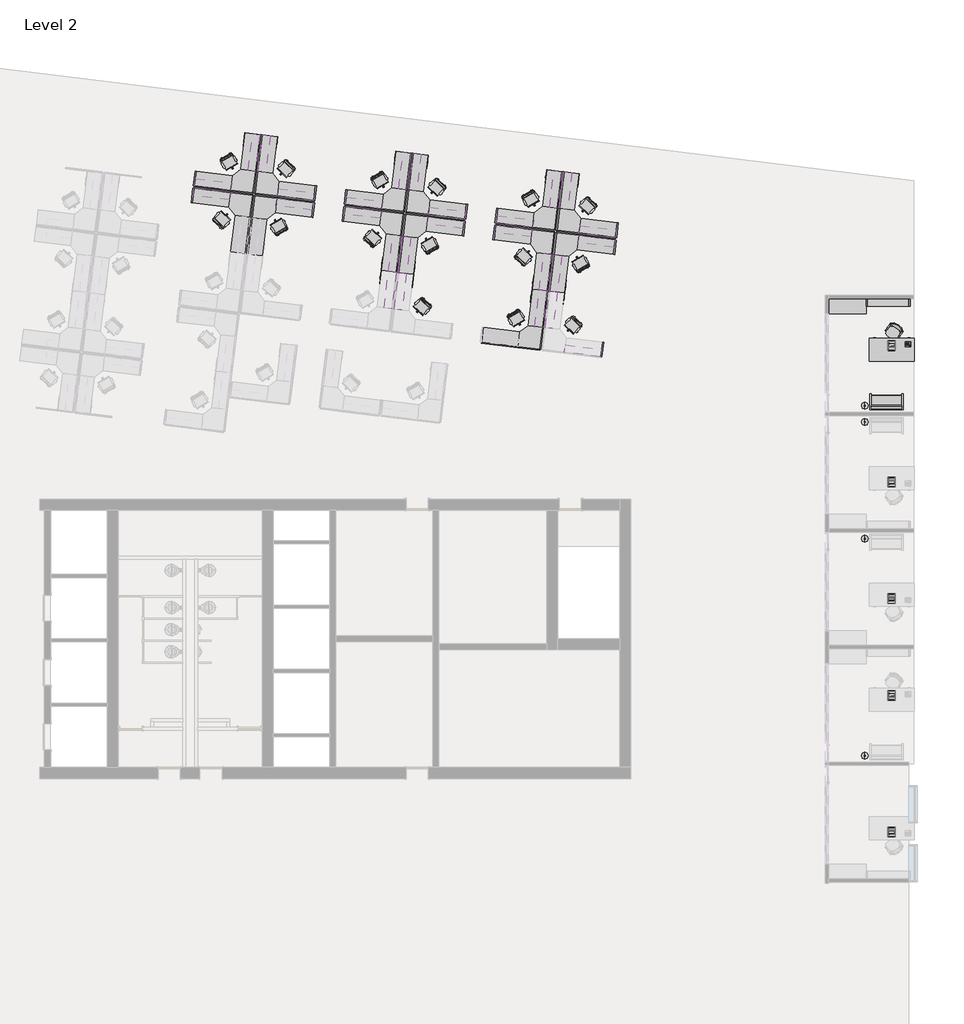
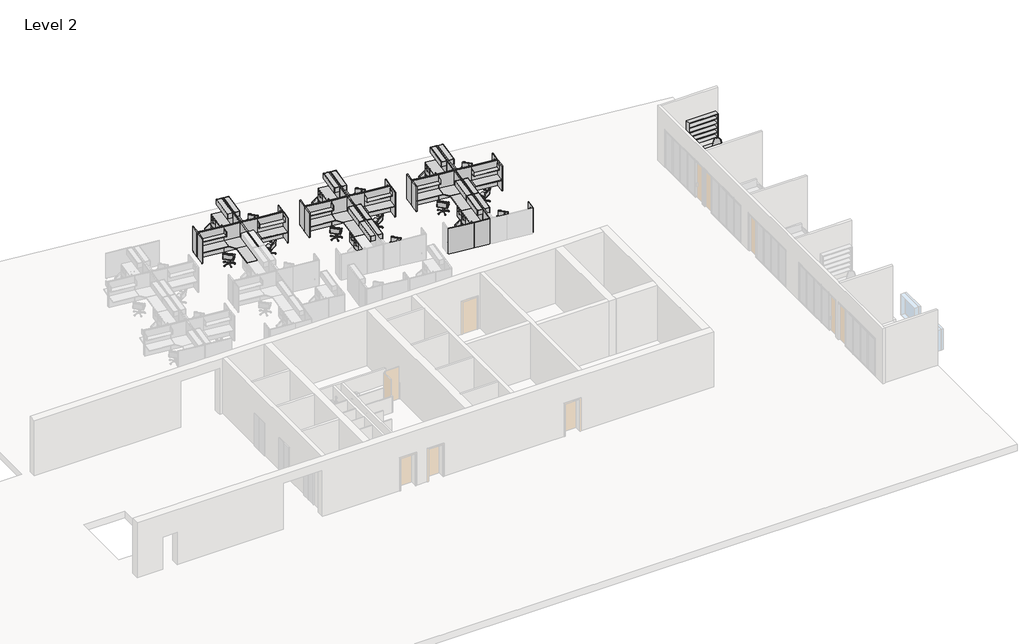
# One storey, part 6 of 6: 87 furniture elements, 6 proxies, 4 light fixtures.
"""IFC4 building model written with IfcOpenShell, lengths in millimetres."""

from ifc_helpers import new_model, si_unit, origin, place, context, project, spatial, transform, mapped, element, save
from components import entourage_0ad6723a, entourage_8dadc95b, phone_phone_5230e7aa, chair_executive_chair_executive_8d69e98c, chair_task_arms_chair_task_arms_3b363349, chair_task_arms_chair_task_arms_8395c10b, furniture_2f1724fb, furniture_665347ce, furniture_3ceed070, furniture_2fc54265, overhead_shelving_module_overhead_shelving_module_3ee17988, overhead_shelving_module_overhead_shelving_module_7dcda1b9, overhead_storage_module_overhead_storage_module_326dc690, overhead_storage_module_overhead_storage_module_bea9f75f, furniture_6f8441ab, furniture_8ec9ccbf, furniture_0333d240, furniture_4718bb14, furniture_45e3acac, furniture_7b33082a, floor_lamp_arm_extension_100w_120v_4af38d8b, floor_lamp_arm_extension_100w_120v_fe5062a9

model = new_model("IFC4")

# Units and contexts
model_context = context("Model", 3, world=origin())
ifc_project = project(units=[si_unit("LENGTHUNIT", "METRE", prefix="MILLI")], contexts=[model_context])

# Site, building, storey
site = spatial("IfcSite", under=ifc_project)
building = spatial("IfcBuilding", under=site)
storey = spatial("IfcBuildingStorey", under=building, Name="Level 2", Elevation=3657.6)

# Proxies
placement = place(None, origin())
entourage_shape = entourage_0ad6723a(model_context)
element("IfcBuildingElementProxy", 1, Name="RPC Notebook Computer : RPC Notebook Computer", ObjectType="RPC Notebook Computer : RPC Notebook Computer", at=placement, inside=storey, context=model_context, shape_type="MappedRepresentation", body=[
    mapped(entourage_shape, transform((14128.9054088, 3143.6530205, 4419.6), x_axis=(-1.0, 0.0, 0.0), y_axis=(0.0, -1.0, 0.0), z_axis=(0.0, 0.0, 1.0))),
])
element("IfcBuildingElementProxy", 2, Name="RPC Notebook Computer : RPC Notebook Computer", ObjectType="RPC Notebook Computer : RPC Notebook Computer", at=placement, inside=storey, context=model_context, shape_type="MappedRepresentation", body=[
    mapped(entourage_shape, transform((14128.9054088, -11359.8598812, 4419.6), x_axis=(-1.0, 0.0, 0.0), y_axis=(0.0, -1.0, 0.0), z_axis=(0.0, 0.0, 1.0))),
])
entourage_2_shape = entourage_8dadc95b(model_context)
element("IfcBuildingElementProxy", 3, Name="RPC Notebook Computer : RPC Notebook Computer", ObjectType="RPC Notebook Computer : RPC Notebook Computer", at=placement, inside=storey, context=model_context, shape_type="MappedRepresentation", body=[
    mapped(entourage_2_shape, transform((14128.9054088, -2561.0729155, 4419.6), x_axis=(-1.0, 0.0, 0.0), y_axis=(0.0, -1.0, 0.0), z_axis=(0.0, 0.0, 1.0))),
])
element("IfcBuildingElementProxy", 4, Name="RPC Notebook Computer : RPC Notebook Computer", ObjectType="RPC Notebook Computer : RPC Notebook Computer", at=placement, inside=storey, context=model_context, shape_type="MappedRepresentation", body=[
    mapped(entourage_2_shape, transform((14128.9054088, -7395.577216, 4419.6), x_axis=(-1.0, 0.0, 0.0), y_axis=(0.0, -1.0, 0.0), z_axis=(0.0, 0.0, 1.0))),
])
element("IfcBuildingElementProxy", 5, Name="RPC Notebook Computer : RPC Notebook Computer", ObjectType="RPC Notebook Computer : RPC Notebook Computer", at=placement, inside=storey, context=model_context, shape_type="MappedRepresentation", body=[
    mapped(entourage_2_shape, transform((14128.9054088, -17064.5858172, 4419.6), x_axis=(-1.0, 0.0, 0.0), y_axis=(0.0, -1.0, 0.0), z_axis=(0.0, 0.0, 1.0))),
])
phone_phone_shape = phone_phone_5230e7aa(model_context)
element("IfcBuildingElementProxy", 6, Name="Phone : Phone", ObjectType="Phone : Phone", at=placement, inside=storey, context=model_context, shape_type="MappedRepresentation", body=[
    mapped(phone_phone_shape, transform((15049.386755, 2959.7567915, 4419.6), x_axis=(1.0, 0.0, 0.0), y_axis=(0.0, 1.0, 0.0), z_axis=(0.0, 0.0, 1.0))),
])

# Furniture
chair_executive_chair_executive_shape = chair_executive_chair_executive_8d69e98c(model_context)
element("IfcFurniture", 7, ObjectType="Chair-Executive : Chair-Executive", at=placement, inside=storey, context=model_context, shape_type="MappedRepresentation", body=[
    mapped(chair_executive_chair_executive_shape, transform((14331.1988374, 3608.0945539, 3657.6), x_axis=(-0.8386705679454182, 0.5446390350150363, 0.0), y_axis=(-0.5446390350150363, -0.8386705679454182, 0.0), z_axis=(0.0, 0.0, 1.0))),
])
chair_task_arms_chair_task_arms_shape = chair_task_arms_chair_task_arms_3b363349(model_context)
element("IfcFurniture", 8, ObjectType="Chair-Task Arms : Chair-Task Arms", at=placement, inside=storey, context=model_context, shape_type="MappedRepresentation", body=[
    mapped(chair_task_arms_chair_task_arms_shape, transform((-13751.3216065, 8411.1318115, 3657.6), x_axis=(0.7193398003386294, -0.6946583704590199, 0.0), y_axis=(0.6946583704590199, 0.7193398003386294, 0.0), z_axis=(0.0, 0.0, 1.0))),
])
element("IfcFurniture", 9, ObjectType="Chair-Task Arms : Chair-Task Arms", at=placement, inside=storey, context=model_context, shape_type="MappedRepresentation", body=[
    mapped(chair_task_arms_chair_task_arms_shape, transform((-7499.074888, 7643.4524435, 3657.6), x_axis=(0.7193398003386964, -0.6946583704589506, 0.0), y_axis=(0.6946583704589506, 0.7193398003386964, 0.0), z_axis=(0.0, 0.0, 1.0))),
])
element("IfcFurniture", 10, ObjectType="Chair-Task Arms : Chair-Task Arms", at=placement, inside=storey, context=model_context, shape_type="MappedRepresentation", body=[
    mapped(chair_task_arms_chair_task_arms_shape, transform((-10847.9259123, 10367.6844822, 3657.6), x_axis=(-0.719339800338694, 0.694658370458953, 0.0), y_axis=(-0.694658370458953, -0.719339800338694, 0.0), z_axis=(0.0, 0.0, 1.0))),
])
element("IfcFurniture", 11, ObjectType="Chair-Task Arms : Chair-Task Arms", at=placement, inside=storey, context=model_context, shape_type="MappedRepresentation", body=[
    mapped(chair_task_arms_chair_task_arms_shape, transform((-4595.6791939, 9600.0051143, 3657.6), x_axis=(-0.719339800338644, 0.6946583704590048, 0.0), y_axis=(-0.6946583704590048, -0.719339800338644, 0.0), z_axis=(0.0, 0.0, 1.0))),
])
element("IfcFurniture", 12, ObjectType="Chair-Task Arms : Chair-Task Arms", at=placement, inside=storey, context=model_context, shape_type="MappedRepresentation", body=[
    mapped(chair_task_arms_chair_task_arms_shape, transform((-5202.3935331, 4658.7133529, 3657.6), x_axis=(-0.7193398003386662, 0.6946583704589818, 0.0), y_axis=(-0.6946583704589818, -0.7193398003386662, 0.0), z_axis=(0.0, 0.0, 1.0))),
])
element("IfcFurniture", 13, ObjectType="Chair-Task Arms : Chair-Task Arms", at=placement, inside=storey, context=model_context, shape_type="MappedRepresentation", body=[
    mapped(chair_task_arms_chair_task_arms_shape, transform((-1246.8281696, 6875.7730755, 3657.6), x_axis=(0.7193398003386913, -0.694658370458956, 0.0), y_axis=(0.694658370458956, 0.7193398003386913, 0.0), z_axis=(0.0, 0.0, 1.0))),
])
element("IfcFurniture", 14, ObjectType="Chair-Task Arms : Chair-Task Arms", at=placement, inside=storey, context=model_context, shape_type="MappedRepresentation", body=[
    mapped(chair_task_arms_chair_task_arms_shape, transform((1656.5675245, 8832.3257463, 3657.6), x_axis=(-0.7193398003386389, 0.6946583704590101, 0.0), y_axis=(-0.6946583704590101, -0.7193398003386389, 0.0), z_axis=(0.0, 0.0, 1.0))),
])
element("IfcFurniture", 15, ObjectType="Chair-Task Arms : Chair-Task Arms", at=placement, inside=storey, context=model_context, shape_type="MappedRepresentation", body=[
    mapped(chair_task_arms_chair_task_arms_shape, transform((1049.8531853, 3891.033985, 3657.6), x_axis=(-0.7193398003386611, 0.6946583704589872, 0.0), y_axis=(-0.6946583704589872, -0.7193398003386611, 0.0), z_axis=(0.0, 0.0, 1.0))),
])
chair_task_arms_chair_task_arms_2_shape = chair_task_arms_chair_task_arms_8395c10b(model_context)
element("IfcFurniture", 16, ObjectType="Chair-Task Arms : Chair-Task Arms", at=placement, inside=storey, context=model_context, shape_type="MappedRepresentation", body=[
    mapped(chair_task_arms_chair_task_arms_2_shape, transform((-13471.5335108, 10689.8229892, 3657.6), x_axis=(0.8660254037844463, 0.4999999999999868, 0.0), y_axis=(-0.4999999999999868, 0.8660254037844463, 0.0), z_axis=(0.0, 0.0, 1.0))),
])
element("IfcFurniture", 17, ObjectType="Chair-Task Arms : Chair-Task Arms", at=placement, inside=storey, context=model_context, shape_type="MappedRepresentation", body=[
    mapped(chair_task_arms_chair_task_arms_2_shape, transform((-7219.2867923, 9922.1436212, 3657.6), x_axis=(0.8660254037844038, 0.5000000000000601, 0.0), y_axis=(-0.5000000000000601, 0.8660254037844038, 0.0), z_axis=(0.0, 0.0, 1.0))),
])
element("IfcFurniture", 18, ObjectType="Chair-Task Arms : Chair-Task Arms", at=placement, inside=storey, context=model_context, shape_type="MappedRepresentation", body=[
    mapped(chair_task_arms_chair_task_arms_2_shape, transform((-11127.714008, 8088.9933045, 3657.6), x_axis=(-0.8660254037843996, -0.5000000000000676, 0.0), y_axis=(0.5000000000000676, -0.8660254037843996, 0.0), z_axis=(0.0, 0.0, 1.0))),
])
element("IfcFurniture", 19, ObjectType="Chair-Task Arms : Chair-Task Arms", at=placement, inside=storey, context=model_context, shape_type="MappedRepresentation", body=[
    mapped(chair_task_arms_chair_task_arms_2_shape, transform((-4875.4672896, 7321.3139366, 3657.6), x_axis=(-0.8660254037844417, -0.49999999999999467, 0.0), y_axis=(0.49999999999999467, -0.8660254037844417, 0.0), z_axis=(0.0, 0.0, 1.0))),
])
element("IfcFurniture", 20, ObjectType="Chair-Task Arms : Chair-Task Arms", at=placement, inside=storey, context=model_context, shape_type="MappedRepresentation", body=[
    mapped(chair_task_arms_chair_task_arms_2_shape, transform((-967.0400739, 9154.4642532, 3657.6), x_axis=(0.8660254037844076, 0.5000000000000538, 0.0), y_axis=(-0.5000000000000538, 0.8660254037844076, 0.0), z_axis=(0.0, 0.0, 1.0))),
])
element("IfcFurniture", 21, ObjectType="Chair-Task Arms : Chair-Task Arms", at=placement, inside=storey, context=model_context, shape_type="MappedRepresentation", body=[
    mapped(chair_task_arms_chair_task_arms_2_shape, transform((-1573.7544131, 4213.1724919, 3657.6), x_axis=(0.8660254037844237, 0.5000000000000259, 0.0), y_axis=(-0.5000000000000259, 0.8660254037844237, 0.0), z_axis=(0.0, 0.0, 1.0))),
])
element("IfcFurniture", 22, ObjectType="Chair-Task Arms : Chair-Task Arms", at=placement, inside=storey, context=model_context, shape_type="MappedRepresentation", body=[
    mapped(chair_task_arms_chair_task_arms_2_shape, transform((1376.7794288, 6553.6345686, 3657.6), x_axis=(-0.8660254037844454, -0.4999999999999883, 0.0), y_axis=(0.4999999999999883, -0.8660254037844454, 0.0), z_axis=(0.0, 0.0, 1.0))),
])
furniture_shape = furniture_2f1724fb(model_context)
element("IfcFurniture", 23, ObjectType="Credenza : 60\" x 24\"", at=placement, inside=storey, context=model_context, shape_type="MappedRepresentation", body=[
    mapped(furniture_shape, transform((12221.5111465, 4755.7246809, 3657.6), x_axis=(1.0, 0.0, 0.0), y_axis=(0.0, 1.0, 0.0), z_axis=(0.0, 0.0, 1.0))),
])
furniture_2_shape = furniture_665347ce(model_context)
element("IfcFurniture", 24, ObjectType="Cube Panel : 24\" x 66\"", at=placement, inside=storey, context=model_context, shape_type="MappedRepresentation", body=[
    mapped(furniture_2_shape, transform((-14838.8170508, 9342.9113863, 3657.6), x_axis=(-0.12186934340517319, -0.9925461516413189, 0.0), y_axis=(0.9925461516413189, -0.12186934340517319, 0.0), z_axis=(0.0, 0.0, 1.0))),
])
element("IfcFurniture", 25, ObjectType="Cube Panel : 24\" x 66\"", at=placement, inside=storey, context=model_context, shape_type="MappedRepresentation", body=[
    mapped(furniture_2_shape, transform((-8586.5703324, 8575.2320183, 3657.6), x_axis=(-0.12186934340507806, -0.9925461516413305, 0.0), y_axis=(0.9925461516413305, -0.12186934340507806, 0.0), z_axis=(0.0, 0.0, 1.0))),
])
element("IfcFurniture", 26, ObjectType="Cube Panel : 24\" x 66\"", at=placement, inside=storey, context=model_context, shape_type="MappedRepresentation", body=[
    mapped(furniture_2_shape, transform((-9760.430468, 9435.9049075, 3657.6), x_axis=(0.12186934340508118, 0.9925461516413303, 0.0), y_axis=(-0.9925461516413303, 0.12186934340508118, 0.0), z_axis=(0.0, 0.0, 1.0))),
])
element("IfcFurniture", 27, ObjectType="Cube Panel : 24\" x 66\"", at=placement, inside=storey, context=model_context, shape_type="MappedRepresentation", body=[
    mapped(furniture_2_shape, transform((-3508.1837495, 8668.2255395, 3657.6), x_axis=(0.12186934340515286, 0.9925461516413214, 0.0), y_axis=(-0.9925461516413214, 0.12186934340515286, 0.0), z_axis=(0.0, 0.0, 1.0))),
])
element("IfcFurniture", 28, ObjectType="Cube Panel : 24\" x 66\"", at=placement, inside=storey, context=model_context, shape_type="MappedRepresentation", body=[
    mapped(furniture_2_shape, transform((-2334.323614, 7807.5526503, 3657.6), x_axis=(-0.12186934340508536, -0.9925461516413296, 0.0), y_axis=(0.9925461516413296, -0.12186934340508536, 0.0), z_axis=(0.0, 0.0, 1.0))),
])
element("IfcFurniture", 29, ObjectType="Cube Panel : 24\" x 66\"", at=placement, inside=storey, context=model_context, shape_type="MappedRepresentation", body=[
    mapped(furniture_2_shape, transform((2744.0629689, 7900.5461715, 3657.6), x_axis=(0.12186934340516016, 0.9925461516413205, 0.0), y_axis=(-0.9925461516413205, 0.12186934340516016, 0.0), z_axis=(0.0, 0.0, 1.0))),
])
element("IfcFurniture", 30, ObjectType="Cube Panel : 24\" x 66\"", at=placement, inside=storey, context=model_context, shape_type="MappedRepresentation", body=[
    mapped(furniture_2_shape, transform((2137.3486297, 2959.2544102, 3657.6), x_axis=(0.12186934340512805, 0.9925461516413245, 0.0), y_axis=(-0.9925461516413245, 0.12186934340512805, 0.0), z_axis=(0.0, 0.0, 1.0))),
])
furniture_3_shape = furniture_3ceed070(model_context)
element("IfcFurniture", 31, ObjectType="Cube Panel : 24\" x 66\"", at=placement, inside=storey, context=model_context, shape_type="MappedRepresentation", body=[
    mapped(furniture_3_shape, transform((-14752.1435738, 10048.8102093, 3657.6), x_axis=(0.1218693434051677, 0.9925461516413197, 0.0), y_axis=(-0.9925461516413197, 0.1218693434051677, 0.0), z_axis=(0.0, 0.0, 1.0))),
])
element("IfcFurniture", 32, ObjectType="Cube Panel : 24\" x 66\"", at=placement, inside=storey, context=model_context, shape_type="MappedRepresentation", body=[
    mapped(furniture_3_shape, transform((-8499.8968554, 9281.1308413, 3657.6), x_axis=(0.12186934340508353, 0.9925461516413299, 0.0), y_axis=(-0.9925461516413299, 0.12186934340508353, 0.0), z_axis=(0.0, 0.0, 1.0))),
])
element("IfcFurniture", 33, ObjectType="Cube Panel : 24\" x 66\"", at=placement, inside=storey, context=model_context, shape_type="MappedRepresentation", body=[
    mapped(furniture_3_shape, transform((-9847.103945, 8730.0060844, 3657.6), x_axis=(-0.1218693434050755, -0.992546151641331, 0.0), y_axis=(0.992546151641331, -0.1218693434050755, 0.0), z_axis=(0.0, 0.0, 1.0))),
])
element("IfcFurniture", 34, ObjectType="Cube Panel : 24\" x 66\"", at=placement, inside=storey, context=model_context, shape_type="MappedRepresentation", body=[
    mapped(furniture_3_shape, transform((-3594.8572266, 7962.3267164, 3657.6), x_axis=(-0.12186934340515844, -0.9925461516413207, 0.0), y_axis=(0.9925461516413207, -0.12186934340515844, 0.0), z_axis=(0.0, 0.0, 1.0))),
])
element("IfcFurniture", 35, ObjectType="Cube Panel : 24\" x 66\"", at=placement, inside=storey, context=model_context, shape_type="MappedRepresentation", body=[
    mapped(furniture_3_shape, transform((-2247.6501369, 8513.4514734, 3657.6), x_axis=(0.12186934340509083, 0.992546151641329, 0.0), y_axis=(-0.992546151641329, 0.12186934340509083, 0.0), z_axis=(0.0, 0.0, 1.0))),
])
element("IfcFurniture", 36, ObjectType="Cube Panel : 24\" x 66\"", at=placement, inside=storey, context=model_context, shape_type="MappedRepresentation", body=[
    mapped(furniture_3_shape, transform((2657.3894919, 7194.6473485, 3657.6), x_axis=(-0.12186934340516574, -0.9925461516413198, 0.0), y_axis=(0.9925461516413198, -0.12186934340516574, 0.0), z_axis=(0.0, 0.0, 1.0))),
])
furniture_4_shape = furniture_2fc54265(model_context)
element("IfcFurniture", 37, ObjectType="Desk : 72\" x 36\"", at=placement, inside=storey, context=model_context, shape_type="MappedRepresentation", body=[
    mapped(furniture_4_shape, transform((13214.5054088, 2495.9530205, 3657.6), x_axis=(1.0, 0.0, 0.0), y_axis=(0.0, 1.0, 0.0), z_axis=(0.0, 0.0, 1.0))),
])
overhead_shelving_module_overhead_shelving_module_shape = overhead_shelving_module_overhead_shelving_module_3ee17988(model_context)
element("IfcFurniture", 38, ObjectType="Overhead Shelving Module : Overhead Shelving Module", at=placement, inside=storey, context=model_context, shape_type="MappedRepresentation", body=[
    mapped(overhead_shelving_module_overhead_shelving_module_shape, transform((-13892.315159, 9295.8473751, 3505.2), x_axis=(0.9925461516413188, -0.12186934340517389, 0.0), y_axis=(0.12186934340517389, 0.9925461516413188, 0.0), z_axis=(0.0, 0.0, 1.0))),
])
element("IfcFurniture", 39, ObjectType="Overhead Shelving Module : Overhead Shelving Module", at=placement, inside=storey, context=model_context, shape_type="MappedRepresentation", body=[
    mapped(overhead_shelving_module_overhead_shelving_module_shape, transform((-7640.0684405, 8528.1680071, 3505.2), x_axis=(0.9925461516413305, -0.12186934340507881, 0.0), y_axis=(0.12186934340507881, 0.9925461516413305, 0.0), z_axis=(0.0, 0.0, 1.0))),
])
element("IfcFurniture", 40, ObjectType="Overhead Shelving Module : Overhead Shelving Module", at=placement, inside=storey, context=model_context, shape_type="MappedRepresentation", body=[
    mapped(overhead_shelving_module_overhead_shelving_module_shape, transform((-10706.9323598, 9482.9689186, 3505.2), x_axis=(-0.9925461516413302, 0.12186934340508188, 0.0), y_axis=(-0.12186934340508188, -0.9925461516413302, 0.0), z_axis=(0.0, 0.0, 1.0))),
])
element("IfcFurniture", 41, ObjectType="Overhead Shelving Module : Overhead Shelving Module", at=placement, inside=storey, context=model_context, shape_type="MappedRepresentation", body=[
    mapped(overhead_shelving_module_overhead_shelving_module_shape, transform((-4454.6856414, 8715.2895506, 3505.2), x_axis=(-0.9925461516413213, 0.12186934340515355, 0.0), y_axis=(-0.12186934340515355, -0.9925461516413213, 0.0), z_axis=(0.0, 0.0, 1.0))),
])
element("IfcFurniture", 42, ObjectType="Overhead Shelving Module : Overhead Shelving Module", at=placement, inside=storey, context=model_context, shape_type="MappedRepresentation", body=[
    mapped(overhead_shelving_module_overhead_shelving_module_shape, transform((-1387.8217221, 7760.4886392, 3505.2), x_axis=(0.9925461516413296, -0.12186934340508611, 0.0), y_axis=(0.12186934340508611, 0.9925461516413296, 0.0), z_axis=(0.0, 0.0, 1.0))),
])
element("IfcFurniture", 43, ObjectType="Overhead Shelving Module : Overhead Shelving Module", at=placement, inside=storey, context=model_context, shape_type="MappedRepresentation", body=[
    mapped(overhead_shelving_module_overhead_shelving_module_shape, transform((1797.561077, 7947.6101827, 3505.2), x_axis=(-0.9925461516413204, 0.12186934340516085, 0.0), y_axis=(-0.12186934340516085, -0.9925461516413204, 0.0), z_axis=(0.0, 0.0, 1.0))),
])
element("IfcFurniture", 44, ObjectType="Overhead Shelving Module : Overhead Shelving Module", at=placement, inside=storey, context=model_context, shape_type="MappedRepresentation", body=[
    mapped(overhead_shelving_module_overhead_shelving_module_shape, transform((1190.8467378, 3006.3184213, 3505.2), x_axis=(-0.9925461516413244, 0.1218693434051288, 0.0), y_axis=(-0.1218693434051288, -0.9925461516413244, 0.0), z_axis=(0.0, 0.0, 1.0))),
])
overhead_shelving_module_overhead_shelving_module_2_shape = overhead_shelving_module_overhead_shelving_module_7dcda1b9(model_context)
element("IfcFurniture", 45, ObjectType="Overhead Shelving Module : Overhead Shelving Module", at=placement, inside=storey, context=model_context, shape_type="MappedRepresentation", body=[
    mapped(overhead_shelving_module_overhead_shelving_module_2_shape, transform((-13822.3710184, 9865.4966863, 3505.2), x_axis=(0.9925461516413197, -0.12186934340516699, 0.0), y_axis=(0.12186934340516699, 0.9925461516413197, 0.0), z_axis=(0.0, 0.0, 1.0))),
])
element("IfcFurniture", 46, ObjectType="Overhead Shelving Module : Overhead Shelving Module", at=placement, inside=storey, context=model_context, shape_type="MappedRepresentation", body=[
    mapped(overhead_shelving_module_overhead_shelving_module_2_shape, transform((-7570.1243, 9097.8173184, 3505.2), x_axis=(0.9925461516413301, -0.12186934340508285, 0.0), y_axis=(0.12186934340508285, 0.9925461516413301, 0.0), z_axis=(0.0, 0.0, 1.0))),
])
element("IfcFurniture", 47, ObjectType="Overhead Shelving Module : Overhead Shelving Module", at=placement, inside=storey, context=model_context, shape_type="MappedRepresentation", body=[
    mapped(overhead_shelving_module_overhead_shelving_module_2_shape, transform((-10776.8765003, 8913.3196074, 3505.2), x_axis=(-0.992546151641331, 0.12186934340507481, 0.0), y_axis=(-0.12186934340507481, -0.992546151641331, 0.0), z_axis=(0.0, 0.0, 1.0))),
])
element("IfcFurniture", 48, ObjectType="Overhead Shelving Module : Overhead Shelving Module", at=placement, inside=storey, context=model_context, shape_type="MappedRepresentation", body=[
    mapped(overhead_shelving_module_overhead_shelving_module_2_shape, transform((-4524.6297819, 8145.6402394, 3505.2), x_axis=(-0.9925461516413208, 0.1218693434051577, 0.0), y_axis=(-0.1218693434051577, -0.9925461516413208, 0.0), z_axis=(0.0, 0.0, 1.0))),
])
element("IfcFurniture", 49, ObjectType="Overhead Shelving Module : Overhead Shelving Module", at=placement, inside=storey, context=model_context, shape_type="MappedRepresentation", body=[
    mapped(overhead_shelving_module_overhead_shelving_module_2_shape, transform((-1317.8775816, 8330.1379504, 3505.2), x_axis=(0.9925461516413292, -0.12186934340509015, 0.0), y_axis=(0.12186934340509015, 0.9925461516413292, 0.0), z_axis=(0.0, 0.0, 1.0))),
])
element("IfcFurniture", 50, ObjectType="Overhead Shelving Module : Overhead Shelving Module", at=placement, inside=storey, context=model_context, shape_type="MappedRepresentation", body=[
    mapped(overhead_shelving_module_overhead_shelving_module_2_shape, transform((1727.6169365, 7377.9608714, 3505.2), x_axis=(-0.9925461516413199, 0.121869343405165, 0.0), y_axis=(-0.121869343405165, -0.9925461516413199, 0.0), z_axis=(0.0, 0.0, 1.0))),
])
overhead_storage_module_overhead_storage_module_shape = overhead_storage_module_overhead_storage_module_326dc690(model_context)
element("IfcFurniture", 51, ObjectType="Overhead Storage Module : Overhead Storage Module", at=placement, inside=storey, context=model_context, shape_type="MappedRepresentation", body=[
    mapped(overhead_storage_module_overhead_storage_module_shape, transform((-6561.9232726, 6785.7687522, 3657.6), x_axis=(-0.12186934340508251, -0.9925461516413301, 0.0), y_axis=(0.9925461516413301, -0.12186934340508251, 0.0), z_axis=(0.0, 0.0, 1.0))),
])
element("IfcFurniture", 52, ObjectType="Overhead Storage Module : Overhead Storage Module", at=placement, inside=storey, context=model_context, shape_type="MappedRepresentation", body=[
    mapped(overhead_storage_module_overhead_storage_module_shape, transform((-11785.0775278, 11225.3681735, 3657.6), x_axis=(0.1218693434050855, 0.9925461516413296, 0.0), y_axis=(-0.9925461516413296, 0.1218693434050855, 0.0), z_axis=(0.0, 0.0, 1.0))),
])
element("IfcFurniture", 53, ObjectType="Overhead Storage Module : Overhead Storage Module", at=placement, inside=storey, context=model_context, shape_type="MappedRepresentation", body=[
    mapped(overhead_storage_module_overhead_storage_module_shape, transform((-5532.8308094, 10457.6888055, 3657.6), x_axis=(0.12186934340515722, 0.9925461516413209, 0.0), y_axis=(-0.9925461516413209, 0.12186934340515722, 0.0), z_axis=(0.0, 0.0, 1.0))),
])
element("IfcFurniture", 54, ObjectType="Overhead Storage Module : Overhead Storage Module", at=placement, inside=storey, context=model_context, shape_type="MappedRepresentation", body=[
    mapped(overhead_storage_module_overhead_storage_module_shape, transform((-6139.5451486, 5516.3970442, 3657.6), x_axis=(0.1218693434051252, 0.9925461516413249, 0.0), y_axis=(-0.9925461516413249, 0.1218693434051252, 0.0), z_axis=(0.0, 0.0, 1.0))),
])
element("IfcFurniture", 55, ObjectType="Overhead Storage Module : Overhead Storage Module", at=placement, inside=storey, context=model_context, shape_type="MappedRepresentation", body=[
    mapped(overhead_storage_module_overhead_storage_module_shape, transform((-309.6765541, 6018.0893843, 3657.6), x_axis=(-0.12186934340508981, -0.9925461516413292, 0.0), y_axis=(0.9925461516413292, -0.12186934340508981, 0.0), z_axis=(0.0, 0.0, 1.0))),
])
element("IfcFurniture", 56, ObjectType="Overhead Storage Module : Overhead Storage Module", at=placement, inside=storey, context=model_context, shape_type="MappedRepresentation", body=[
    mapped(overhead_storage_module_overhead_storage_module_shape, transform((719.4159091, 9690.0094376, 3657.6), x_axis=(0.12186934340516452, 0.99254615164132, 0.0), y_axis=(-0.99254615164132, 0.12186934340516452, 0.0), z_axis=(0.0, 0.0, 1.0))),
])
element("IfcFurniture", 57, ObjectType="Overhead Storage Module : Overhead Storage Module", at=placement, inside=storey, context=model_context, shape_type="MappedRepresentation", body=[
    mapped(overhead_storage_module_overhead_storage_module_shape, transform((112.7015698, 4748.7176762, 3657.6), x_axis=(0.1218693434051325, 0.992546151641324, 0.0), y_axis=(-0.992546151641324, 0.1218693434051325, 0.0), z_axis=(0.0, 0.0, 1.0))),
])
overhead_storage_module_overhead_storage_module_2_shape = overhead_storage_module_overhead_storage_module_bea9f75f(model_context)
element("IfcFurniture", 58, ObjectType="Overhead Storage Module : Overhead Storage Module", at=placement, inside=storey, context=model_context, shape_type="MappedRepresentation", body=[
    mapped(overhead_storage_module_overhead_storage_module_2_shape, transform((-12354.726839, 11295.3123141, 3657.6), x_axis=(0.12186934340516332, 0.9925461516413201, 0.0), y_axis=(-0.9925461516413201, 0.12186934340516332, 0.0), z_axis=(0.0, 0.0, 1.0))),
])
element("IfcFurniture", 59, ObjectType="Overhead Storage Module : Overhead Storage Module", at=placement, inside=storey, context=model_context, shape_type="MappedRepresentation", body=[
    mapped(overhead_storage_module_overhead_storage_module_2_shape, transform((-6102.4801206, 10527.6329461, 3657.6), x_axis=(0.12186934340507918, 0.9925461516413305, 0.0), y_axis=(-0.9925461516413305, 0.12186934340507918, 0.0), z_axis=(0.0, 0.0, 1.0))),
])
element("IfcFurniture", 60, ObjectType="Overhead Storage Module : Overhead Storage Module", at=placement, inside=storey, context=model_context, shape_type="MappedRepresentation", body=[
    mapped(overhead_storage_module_overhead_storage_module_2_shape, transform((-6709.1944598, 5586.3411848, 3657.6), x_axis=(0.12186934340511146, 0.9925461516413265, 0.0), y_axis=(-0.9925461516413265, 0.12186934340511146, 0.0), z_axis=(0.0, 0.0, 1.0))),
])
element("IfcFurniture", 61, ObjectType="Overhead Storage Module : Overhead Storage Module", at=placement, inside=storey, context=model_context, shape_type="MappedRepresentation", body=[
    mapped(overhead_storage_module_overhead_storage_module_2_shape, transform((-5992.2739614, 6715.8246117, 3657.6), x_axis=(-0.12186934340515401, -0.9925461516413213, 0.0), y_axis=(0.9925461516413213, -0.12186934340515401, 0.0), z_axis=(0.0, 0.0, 1.0))),
])
element("IfcFurniture", 62, ObjectType="Overhead Storage Module : Overhead Storage Module", at=placement, inside=storey, context=model_context, shape_type="MappedRepresentation", body=[
    mapped(overhead_storage_module_overhead_storage_module_2_shape, transform((149.7665979, 9759.9535781, 3657.6), x_axis=(0.12186934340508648, 0.9925461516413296, 0.0), y_axis=(-0.9925461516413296, 0.12186934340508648, 0.0), z_axis=(0.0, 0.0, 1.0))),
])
element("IfcFurniture", 63, ObjectType="Overhead Storage Module : Overhead Storage Module", at=placement, inside=storey, context=model_context, shape_type="MappedRepresentation", body=[
    mapped(overhead_storage_module_overhead_storage_module_2_shape, transform((-456.9477414, 4818.6618168, 3657.6), x_axis=(0.12186934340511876, 0.9925461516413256, 0.0), y_axis=(-0.9925461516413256, 0.12186934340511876, 0.0), z_axis=(0.0, 0.0, 1.0))),
])
element("IfcFurniture", 64, ObjectType="Overhead Storage Module : Overhead Storage Module", at=placement, inside=storey, context=model_context, shape_type="MappedRepresentation", body=[
    mapped(overhead_storage_module_overhead_storage_module_2_shape, transform((259.9727571, 5948.1452437, 3657.6), x_axis=(-0.12186934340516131, -0.9925461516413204, 0.0), y_axis=(0.9925461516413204, -0.12186934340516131, 0.0), z_axis=(0.0, 0.0, 1.0))),
])
furniture_5_shape = furniture_6f8441ab(model_context)
element("IfcFurniture", 65, ObjectType="Shelving : 96\" x 12\" x 84\"", at=placement, inside=storey, context=model_context, shape_type="MappedRepresentation", body=[
    mapped(furniture_5_shape, transform((13982.8554088, 5208.3443531, 3657.6), x_axis=(1.0, 0.0, 0.0), y_axis=(0.0, 1.0, 0.0), z_axis=(0.0, 0.0, 1.0))),
])
furniture_6_shape = furniture_8ec9ccbf(model_context)
element("IfcFurniture", 66, ObjectType="Sofa : 54\"", at=placement, inside=storey, context=model_context, shape_type="MappedRepresentation", body=[
    mapped(furniture_6_shape, transform((13848.0435844, 933.0927839, 3657.6), x_axis=(1.0, 0.0, 0.0), y_axis=(0.0, 1.0, 0.0), z_axis=(0.0, 0.0, 1.0))),
])
furniture_7_shape = furniture_0333d240(model_context)
element("IfcFurniture", 67, ObjectType="Storage Pedestal : 20\" x 30\" x 36\"", at=placement, inside=storey, context=model_context, shape_type="MappedRepresentation", body=[
    mapped(furniture_7_shape, transform((-5833.5477932, 6187.7041847, 3657.6), x_axis=(-0.12186934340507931, -0.9925461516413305, 0.0), y_axis=(0.9925461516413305, -0.12186934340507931, 0.0), z_axis=(0.0, 0.0, 1.0))),
])
element("IfcFurniture", 68, ObjectType="Storage Pedestal : 20\" x 30\" x 36\"", at=placement, inside=storey, context=model_context, shape_type="MappedRepresentation", body=[
    mapped(furniture_7_shape, transform((-12513.4530071, 11823.432741, 3657.6), x_axis=(0.12186934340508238, 0.9925461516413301, 0.0), y_axis=(-0.9925461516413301, 0.12186934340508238, 0.0), z_axis=(0.0, 0.0, 1.0))),
])
element("IfcFurniture", 69, ObjectType="Storage Pedestal : 20\" x 30\" x 36\"", at=placement, inside=storey, context=model_context, shape_type="MappedRepresentation", body=[
    mapped(furniture_7_shape, transform((-6261.2062887, 11055.7533731, 3657.6), x_axis=(0.12186934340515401, 0.9925461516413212, 0.0), y_axis=(-0.9925461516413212, 0.12186934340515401, 0.0), z_axis=(0.0, 0.0, 1.0))),
])
element("IfcFurniture", 70, ObjectType="Storage Pedestal : 20\" x 30\" x 36\"", at=placement, inside=storey, context=model_context, shape_type="MappedRepresentation", body=[
    mapped(furniture_7_shape, transform((-6867.9206279, 6114.4616117, 3657.6), x_axis=(0.12186934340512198, 0.9925461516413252, 0.0), y_axis=(-0.9925461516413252, 0.12186934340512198, 0.0), z_axis=(0.0, 0.0, 1.0))),
])
element("IfcFurniture", 71, ObjectType="Storage Pedestal : 20\" x 30\" x 36\"", at=placement, inside=storey, context=model_context, shape_type="MappedRepresentation", body=[
    mapped(furniture_7_shape, transform((418.6989252, 5420.0248167, 3657.6), x_axis=(-0.12186934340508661, -0.9925461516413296, 0.0), y_axis=(0.9925461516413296, -0.12186934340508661, 0.0), z_axis=(0.0, 0.0, 1.0))),
])
element("IfcFurniture", 72, ObjectType="Storage Pedestal : 20\" x 30\" x 36\"", at=placement, inside=storey, context=model_context, shape_type="MappedRepresentation", body=[
    mapped(furniture_7_shape, transform((-8.9595703, 10288.0740051, 3657.6), x_axis=(0.12186934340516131, 0.9925461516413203, 0.0), y_axis=(-0.9925461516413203, 0.12186934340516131, 0.0), z_axis=(0.0, 0.0, 1.0))),
])
element("IfcFurniture", 73, ObjectType="Storage Pedestal : 20\" x 30\" x 36\"", at=placement, inside=storey, context=model_context, shape_type="MappedRepresentation", body=[
    mapped(furniture_7_shape, transform((-615.6739095, 5346.7822438, 3657.6), x_axis=(0.12186934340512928, 0.9925461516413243, 0.0), y_axis=(-0.9925461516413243, 0.12186934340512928, 0.0), z_axis=(0.0, 0.0, 1.0))),
])
furniture_8_shape = furniture_4718bb14(model_context)
element("IfcFurniture", 74, ObjectType="Storage Pedestal : 20\" x 30\" x 36\"", at=placement, inside=storey, context=model_context, shape_type="MappedRepresentation", body=[
    mapped(furniture_8_shape, transform((-11503.3023104, 11699.4018313, 3657.6), x_axis=(0.12186934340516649, 0.9925461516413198, 0.0), y_axis=(-0.9925461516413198, 0.12186934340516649, 0.0), z_axis=(0.0, 0.0, 1.0))),
])
element("IfcFurniture", 75, ObjectType="Storage Pedestal : 20\" x 30\" x 36\"", at=placement, inside=storey, context=model_context, shape_type="MappedRepresentation", body=[
    mapped(furniture_8_shape, transform((-5251.055592, 10931.7224633, 3657.6), x_axis=(0.12186934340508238, 0.9925461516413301, 0.0), y_axis=(-0.9925461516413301, 0.12186934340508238, 0.0), z_axis=(0.0, 0.0, 1.0))),
])
element("IfcFurniture", 76, ObjectType="Storage Pedestal : 20\" x 30\" x 36\"", at=placement, inside=storey, context=model_context, shape_type="MappedRepresentation", body=[
    mapped(furniture_8_shape, transform((-5857.7699312, 5990.430702, 3657.6), x_axis=(0.12186934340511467, 0.9925461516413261, 0.0), y_axis=(-0.9925461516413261, 0.12186934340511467, 0.0), z_axis=(0.0, 0.0, 1.0))),
])
element("IfcFurniture", 77, ObjectType="Storage Pedestal : 20\" x 30\" x 36\"", at=placement, inside=storey, context=model_context, shape_type="MappedRepresentation", body=[
    mapped(furniture_8_shape, transform((-6843.69849, 6311.7350944, 3657.6), x_axis=(-0.12186934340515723, -0.992546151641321, 0.0), y_axis=(0.992546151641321, -0.12186934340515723, 0.0), z_axis=(0.0, 0.0, 1.0))),
])
element("IfcFurniture", 78, ObjectType="Storage Pedestal : 20\" x 30\" x 36\"", at=placement, inside=storey, context=model_context, shape_type="MappedRepresentation", body=[
    mapped(furniture_8_shape, transform((1001.1911264, 10164.0430954, 3657.6), x_axis=(0.12186934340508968, 0.9925461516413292, 0.0), y_axis=(-0.9925461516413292, 0.12186934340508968, 0.0), z_axis=(0.0, 0.0, 1.0))),
])
element("IfcFurniture", 79, ObjectType="Storage Pedestal : 20\" x 30\" x 36\"", at=placement, inside=storey, context=model_context, shape_type="MappedRepresentation", body=[
    mapped(furniture_8_shape, transform((394.4767872, 5222.751334, 3657.6), x_axis=(0.12186934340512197, 0.9925461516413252, 0.0), y_axis=(-0.9925461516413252, 0.12186934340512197, 0.0), z_axis=(0.0, 0.0, 1.0))),
])
element("IfcFurniture", 80, ObjectType="Storage Pedestal : 20\" x 30\" x 36\"", at=placement, inside=storey, context=model_context, shape_type="MappedRepresentation", body=[
    mapped(furniture_8_shape, transform((-591.4517715, 5544.0557265, 3657.6), x_axis=(-0.12186934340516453, -0.9925461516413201, 0.0), y_axis=(0.9925461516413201, -0.12186934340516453, 0.0), z_axis=(0.0, 0.0, 1.0))),
])
furniture_9_shape = furniture_45e3acac(model_context)
element("IfcFurniture", 81, ObjectType="Work Station Cubicle : 96\" x 96\"", at=placement, inside=storey, context=model_context, shape_type="MappedRepresentation", body=[
    mapped(furniture_9_shape, transform((-11824.3446403, 9198.3301742, 3657.6), x_axis=(-0.1218693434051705, -0.9925461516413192, 0.0), y_axis=(0.9925461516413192, -0.1218693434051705, 0.0), z_axis=(0.0, 0.0, 1.0))),
])
element("IfcFurniture", 82, ObjectType="Work Station Cubicle : 96\" x 96\"", at=placement, inside=storey, context=model_context, shape_type="MappedRepresentation", body=[
    mapped(furniture_9_shape, transform((-5572.0979219, 8430.6508063, 3657.6), x_axis=(-0.12186934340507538, -0.992546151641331, 0.0), y_axis=(0.992546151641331, -0.12186934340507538, 0.0), z_axis=(0.0, 0.0, 1.0))),
])
element("IfcFurniture", 83, ObjectType="Work Station Cubicle : 96\" x 96\"", at=placement, inside=storey, context=model_context, shape_type="MappedRepresentation", body=[
    mapped(furniture_9_shape, transform((-12774.9028784, 9580.4861195, 3657.6), x_axis=(0.12186934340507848, 0.9925461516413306, 0.0), y_axis=(-0.9925461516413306, 0.12186934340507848, 0.0), z_axis=(0.0, 0.0, 1.0))),
])
element("IfcFurniture", 84, ObjectType="Work Station Cubicle : 96\" x 96\"", at=placement, inside=storey, context=model_context, shape_type="MappedRepresentation", body=[
    mapped(furniture_9_shape, transform((-6522.65616, 8812.8067515, 3657.6), x_axis=(0.12186934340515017, 0.9925461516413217, 0.0), y_axis=(-0.9925461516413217, 0.12186934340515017, 0.0), z_axis=(0.0, 0.0, 1.0))),
])
element("IfcFurniture", 85, ObjectType="Work Station Cubicle : 96\" x 96\"", at=placement, inside=storey, context=model_context, shape_type="MappedRepresentation", body=[
    mapped(furniture_9_shape, transform((680.1487965, 7662.9714383, 3657.6), x_axis=(-0.12186934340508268, -0.9925461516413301, 0.0), y_axis=(0.9925461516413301, -0.12186934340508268, 0.0), z_axis=(0.0, 0.0, 1.0))),
])
element("IfcFurniture", 86, ObjectType="Work Station Cubicle : 96\" x 96\"", at=placement, inside=storey, context=model_context, shape_type="MappedRepresentation", body=[
    mapped(furniture_9_shape, transform((-270.4094416, 8045.1273835, 3657.6), x_axis=(0.12186934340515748, 0.9925461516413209, 0.0), y_axis=(-0.9925461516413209, 0.12186934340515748, 0.0), z_axis=(0.0, 0.0, 1.0))),
])
furniture_10_shape = furniture_7b33082a(model_context)
element("IfcFurniture", 87, ObjectType="Work Station Cubicle : 96\" x 96\"", at=placement, inside=storey, context=model_context, shape_type="MappedRepresentation", body=[
    mapped(furniture_10_shape, transform((-11792.236516, 9459.8298617, 3657.6), x_axis=(0.12186934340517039, 0.9925461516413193, 0.0), y_axis=(-0.9925461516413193, 0.12186934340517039, 0.0), z_axis=(0.0, 0.0, 1.0))),
])
element("IfcFurniture", 88, ObjectType="Work Station Cubicle : 96\" x 96\"", at=placement, inside=storey, context=model_context, shape_type="MappedRepresentation", body=[
    mapped(furniture_10_shape, transform((-5539.9897976, 8692.1504937, 3657.6), x_axis=(0.12186934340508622, 0.9925461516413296, 0.0), y_axis=(-0.9925461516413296, 0.12186934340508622, 0.0), z_axis=(0.0, 0.0, 1.0))),
])
element("IfcFurniture", 89, ObjectType="Work Station Cubicle : 96\" x 96\"", at=placement, inside=storey, context=model_context, shape_type="MappedRepresentation", body=[
    mapped(furniture_10_shape, transform((-12807.0110027, 9318.9864321, 3657.6), x_axis=(-0.12186934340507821, -0.9925461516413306, 0.0), y_axis=(0.9925461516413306, -0.12186934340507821, 0.0), z_axis=(0.0, 0.0, 1.0))),
])
element("IfcFurniture", 90, ObjectType="Work Station Cubicle : 96\" x 96\"", at=placement, inside=storey, context=model_context, shape_type="MappedRepresentation", body=[
    mapped(furniture_10_shape, transform((-6554.7642843, 8551.3070641, 3657.6), x_axis=(-0.12186934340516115, -0.9925461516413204, 0.0), y_axis=(0.9925461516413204, -0.12186934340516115, 0.0), z_axis=(0.0, 0.0, 1.0))),
])
element("IfcFurniture", 91, ObjectType="Work Station Cubicle : 96\" x 96\"", at=placement, inside=storey, context=model_context, shape_type="MappedRepresentation", body=[
    mapped(furniture_10_shape, transform((712.2569208, 7924.4711257, 3657.6), x_axis=(0.12186934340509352, 0.9925461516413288, 0.0), y_axis=(-0.9925461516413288, 0.12186934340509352, 0.0), z_axis=(0.0, 0.0, 1.0))),
])
element("IfcFurniture", 92, ObjectType="Work Station Cubicle : 96\" x 96\"", at=placement, inside=storey, context=model_context, shape_type="MappedRepresentation", body=[
    mapped(furniture_10_shape, transform((105.5425816, 2983.1793644, 3657.6), x_axis=(0.12186934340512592, 0.9925461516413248, 0.0), y_axis=(-0.9925461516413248, 0.12186934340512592, 0.0), z_axis=(0.0, 0.0, 1.0))),
])
element("IfcFurniture", 93, ObjectType="Work Station Cubicle : 96\" x 96\"", at=placement, inside=storey, context=model_context, shape_type="MappedRepresentation", body=[
    mapped(furniture_10_shape, transform((-302.5175659, 7783.6276961, 3657.6), x_axis=(-0.12186934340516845, -0.9925461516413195, 0.0), y_axis=(0.9925461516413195, -0.12186934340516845, 0.0), z_axis=(0.0, 0.0, 1.0))),
])

# Light fixtures
floor_lamp_arm_extension_100w_120v_shape = floor_lamp_arm_extension_100w_120v_4af38d8b(model_context)
element("IfcLightFixture", 94, ObjectType="Floor Lamp - Arm Extension : 100W - 120V", at=placement, inside=storey, context=model_context, shape_type="MappedRepresentation", body=[
    mapped(floor_lamp_arm_extension_100w_120v_shape, transform((13016.7140762, -47.4142481, 3657.6), x_axis=(-1.0, 0.0, 0.0), y_axis=(0.0, -1.0, 0.0), z_axis=(0.0, 0.0, 1.0))),
])
element("IfcLightFixture", 95, ObjectType="Floor Lamp - Arm Extension : 100W - 120V", at=placement, inside=storey, context=model_context, shape_type="MappedRepresentation", body=[
    mapped(floor_lamp_arm_extension_100w_120v_shape, transform((13016.7140762, -4881.9185486, 3657.6), x_axis=(-1.0, 0.0, 0.0), y_axis=(0.0, -1.0, 0.0), z_axis=(0.0, 0.0, 1.0))),
])
floor_lamp_arm_extension_100w_120v_2_shape = floor_lamp_arm_extension_100w_120v_fe5062a9(model_context)
element("IfcLightFixture", 96, ObjectType="Floor Lamp - Arm Extension : 100W - 120V", at=placement, inside=storey, context=model_context, shape_type="MappedRepresentation", body=[
    mapped(floor_lamp_arm_extension_100w_120v_2_shape, transform((13016.7140762, 629.9943531, 3657.6), x_axis=(-1.0, 0.0, 0.0), y_axis=(0.0, -1.0, 0.0), z_axis=(0.0, 0.0, 1.0))),
])
element("IfcLightFixture", 97, ObjectType="Floor Lamp - Arm Extension : 100W - 120V", at=placement, inside=storey, context=model_context, shape_type="MappedRepresentation", body=[
    mapped(floor_lamp_arm_extension_100w_120v_2_shape, transform((13016.7140762, -13873.5185486, 3657.6), x_axis=(-1.0, 0.0, 0.0), y_axis=(0.0, -1.0, 0.0), z_axis=(0.0, 0.0, 1.0))),
])

save(model, "model.ifc")
